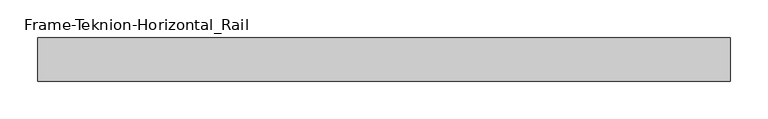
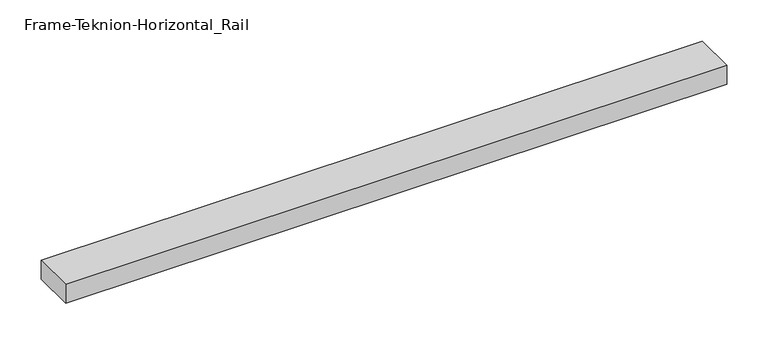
"""IFC4 building model written with IfcOpenShell, lengths in millimetres: proxy geometry, Frame-Teknion-Horizontal_Rail : FPKK."""

from ifc_helpers import new_model, si_unit, frame, origin, place, context, project, spatial, polyline, outline, extrude, source, transform, mapped, element, save


def frame_teknion_horizontal_rail_d9ddab7f(model_context):
    return source(origin(), model_context, "Body", "SweptSolid", [
        extrude(outline(polyline([(-461.6152344, -29.2199219), (-461.6152344, 29.2199219), (461.6152344, 29.2199219), (461.6152344, -29.2199219), (-461.6152344, -29.2199219)])), frame((0.0, 0.0, -13.9898438), z_axis=(0.0, 0.0, 1.0), x_axis=(1.0, 0.0, 0.0)), (0.0, 0.0, 1.0), 27.9796875),
    ])


if __name__ == "__main__":
    model = new_model("IFC4")
    model_context = context("Model", 3, world=origin())
    ifc_project = project(units=[si_unit("LENGTHUNIT", "METRE", prefix="MILLI")], contexts=[model_context])
    site = spatial("IfcSite", under=ifc_project)
    building = spatial("IfcBuilding", under=site)
    placement = place(None, origin())
    frame_teknion_horizontal_rail_shape = frame_teknion_horizontal_rail_d9ddab7f(model_context)
    element("IfcBuildingElementProxy", 1, Name="Frame-Teknion-Horizontal_Rail : FPKK", ObjectType="Frame-Teknion-Horizontal_Rail : FPKK", at=placement, inside=building, context=model_context, shape_type="MappedRepresentation", body=[
        mapped(frame_teknion_horizontal_rail_shape, transform((0.0, 0.0, 0.0), x_axis=(1.0, 0.0, 0.0), y_axis=(0.0, 1.0, 0.0), z_axis=(0.0, 0.0, 1.0))),
    ])
    save(model, "model.ifc")
